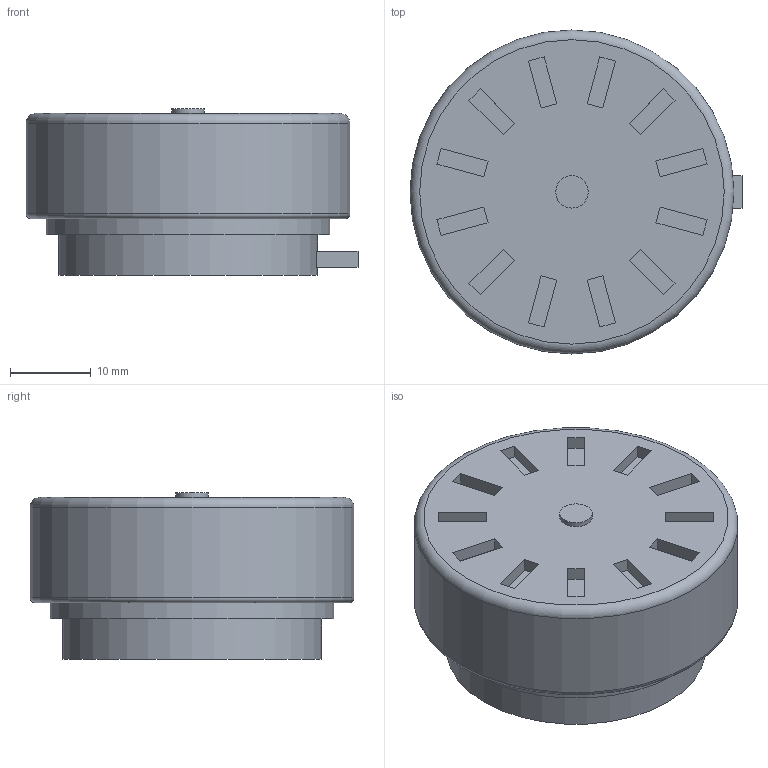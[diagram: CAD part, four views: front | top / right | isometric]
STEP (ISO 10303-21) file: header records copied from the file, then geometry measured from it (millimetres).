
FILE_DESCRIPTION(('Open CASCADE Model'),'2;1');
FILE_NAME('Open CASCADE Shape Model','2026-11-01T16:34:14',('Author'),( 'Open CASCADE'),'Open CASCADE STEP processor 8.0','build123d', 'Unknown');
FILE_SCHEMA(('AUTOMOTIVE_DESIGN { 1 0 10303 214 1 1 1 1 }'));
Length unit declared in the file: millimetre
Products named in the file (1): SOLID
Bounding box: 41 x 40 x 20.6 mm (x, y, z)
Volume: 22051.3 mm3; surface area: 5147.1 mm2
Topology: 1 solids, 1 shells, 76 faces, 175 edges, 116 vertices
Faces by surface type: plane 70, cylinder 4, torus 2
Full cylindrical faces by diameter (mm): 4 x1, 32 x1, 35 x1, 40 x1
Entity records: 4300 total; most frequent: CARTESIAN_POINT 822, DIRECTION 591, LINE 393, VECTOR 393, ORIENTED_EDGE 350, PCURVE 350, DEFINITIONAL_REPRESENTATION 350, EDGE_CURVE 175
